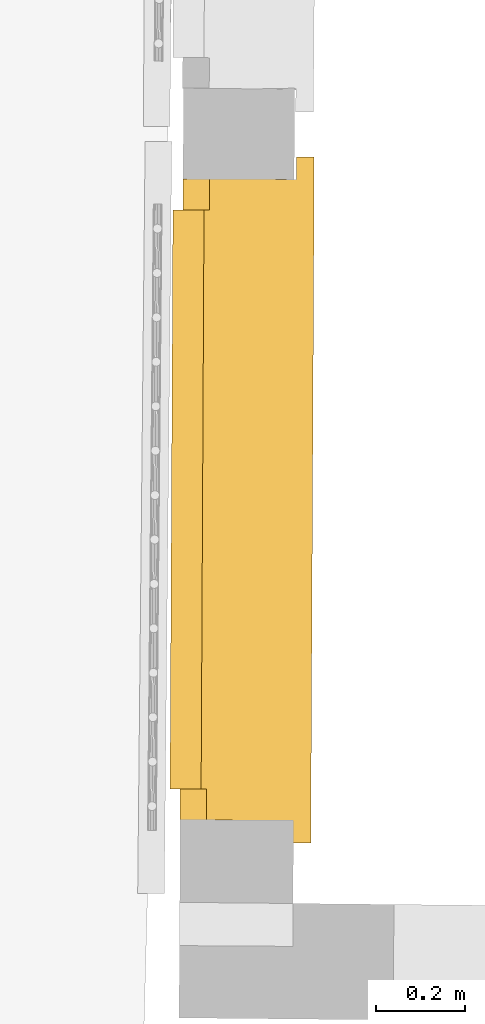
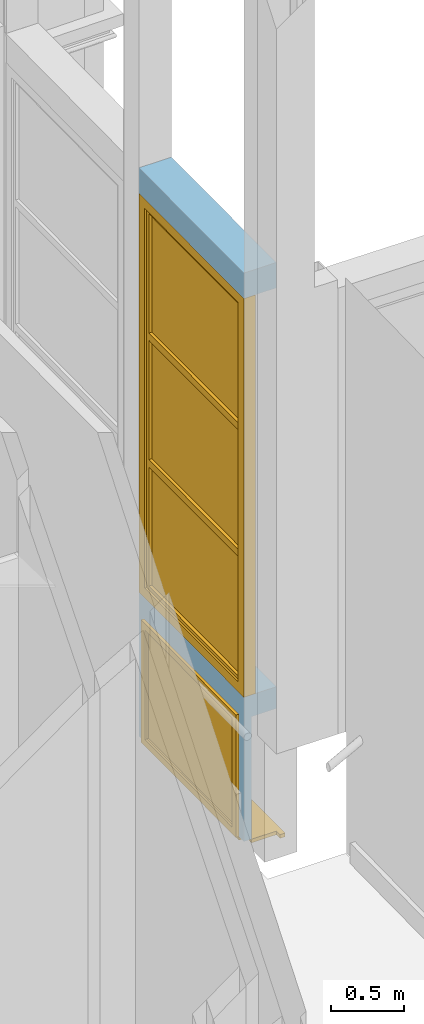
# One storey, part 61 of 97: 2 windows, 2 openings, plus 1 element that does not belong to this part.
"""IFC2X3 building model written with IfcOpenShell, lengths in centimetres."""

from ifc_helpers import new_model, entity, si_unit, converted_unit, direction, frame, origin, origin_with_axes, origin_2d_with_axis, place, context, subcontext, project, spatial, polyline, rectangle, outline, extrude, faceted_brep, shape, source, transform, mapped, material, material_list, layer, layer_set, layer_usage, type_object, element, fill, save


model = new_model("IFC2X3")

# Units and contexts
model_context = context("Model", 3, precision=0.0001, world=origin(), true_north=direction((0.225632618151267, 0.974212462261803, 0.0)))
body_context = subcontext(model_context, "Body", "Model", "MODEL_VIEW")
footprint_context = subcontext(model_context, "FootPrint", "Model", "MODEL_VIEW")
profile_context = subcontext(model_context, "Profile", "Model", "MODEL_VIEW")
ifc_project = project(units=[si_unit("LENGTHUNIT", "METRE", prefix="CENTI"), si_unit("AREAUNIT", "SQUARE_METRE", prefix="CENTI"), si_unit("VOLUMEUNIT", "CUBIC_METRE", prefix="CENTI"), converted_unit("PLANEANGLEUNIT", "DEGREE", entity("IfcRatioMeasure", 0.0174532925), si_unit("PLANEANGLEUNIT", "RADIAN"), dimensions=[0, 0, 0, 0, 0, 0, 0])], contexts=[model_context])

# Site, building, storey
site_placement = place(None, origin_with_axes())
site = spatial("IfcSite", under=ifc_project, at=site_placement, Name="Default Site", CompositionType="ELEMENT")
building_placement = place(site_placement, origin_with_axes())
building = spatial("IfcBuilding", under=site, at=building_placement, Name="Default Building", CompositionType="ELEMENT")
storey_placement = place(building_placement, origin_with_axes())
storey = spatial("IfcBuildingStorey", under=building, at=storey_placement, Name="Rez-de-chaussée", CompositionType="ELEMENT", Elevation=0.0)

# Wall, openings, windows
ifc_material_1 = material(Name="<aucun>")
ifc_layer = layer(ifc_material_1, 25.5)
ifc_layer_set = layer_set([ifc_layer], Name="default")
ifc_layer_usage = layer_usage(ifc_layer_set, "AXIS2", "POSITIVE", -12.75)
wall_type = type_object("IfcWallType", Name="default 255", PredefinedType="NOTDEFINED", material=ifc_layer_set)
wall_placement = place(storey_placement, frame((1083.47369991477, -176.791939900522, 0.0128503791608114), z_axis=(0.0, 0.0, 1.0), x_axis=(0.00502234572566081, 0.999987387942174, 0.0)))
wall = element("IfcWallStandardCase", 1, at=wall_placement, inside=storey, type_object=wall_type, material=ifc_layer_usage, Name="Enveloppe 728190", context=body_context, shape_type="SweptSolid", body=[
    extrude(rectangle(XDim=144.13896955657, YDim=25.5000000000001, at=origin_2d_with_axis()), frame((72.1624117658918, 1.77635683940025e-13, -5.42101086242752e-18), z_axis=(0.0, 0.0, 1.0), x_axis=(1.0, 5.40366362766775e-16, 0.0)), (0.0, 0.0, 1.0), 472.782507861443),
])
opening_1_placement = place(wall_placement, frame((2.8421709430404e-14, 0.0, -1.38951350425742e-15), z_axis=(0.0, 0.0, 1.0), x_axis=(-1.0, -1.99493199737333e-17, 0.0)))
cartesian_point_1 = entity("IfcCartesianPoint", [0.0, 0.0, 101.871089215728])
cartesian_point_2 = entity("IfcCartesianPoint", [-144.331896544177, -12.75])
opening_1 = element("IfcOpeningElement", 2, at=opening_1_placement, cuts=wall, Name="4294966482_11", ObjectType="Opening", shapes=[
    shape(body_context, "Body", "Brep", [faceted_brep([(-6.99999932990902, -32.7499538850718, 101.871085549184), (-137.33189540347, -32.7499538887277, 101.871085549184), (-137.33189540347, -32.7499538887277, -4.6260634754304e-10), (-6.99999932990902, -32.7499538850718, -4.6260634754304e-10), (5.61012087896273e-06, 32.7499530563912, -4.6260634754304e-10), (-144.324824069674, 32.7499530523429, -4.6260634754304e-10), (-144.324824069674, 32.7499530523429, 101.871085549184), (5.61012087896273e-06, 32.7499530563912, 101.871085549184), (-6.99999933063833, -6.74998454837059, -4.6260634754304e-10), (-6.99999933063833, -6.74998454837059, 101.871085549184), (-6.99999830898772, -6.74998454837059, 101.871085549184), (-6.99999830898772, -6.74998454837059, -4.6260634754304e-10), (2.47917010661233e-08, -6.74998454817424, -4.6260634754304e-10), (2.47917010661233e-08, -6.74998454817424, 101.871085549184), (2.47917020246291e-08, -6.75001871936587, 101.871085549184), (2.47917020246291e-08, -6.75001871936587, -4.6260634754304e-10), (2.36837233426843e-08, 32.7499530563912, -4.6260634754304e-10), (2.36837233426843e-08, 32.7499530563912, 101.871085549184), (-137.33189540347, -32.7500190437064, -4.6260634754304e-10), (-137.331897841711, -6.74995435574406, -4.6260634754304e-10), (-144.331895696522, -6.75001555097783, -4.6260634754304e-10), (-144.331896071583, 32.7499561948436, -4.6260634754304e-10), (-137.33189540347, -32.7500190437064, 101.871085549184), (-137.331895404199, -6.74995435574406, 101.871085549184), (-137.331895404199, -6.74995435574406, -4.6260634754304e-10), (-137.331897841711, -6.74995435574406, 101.871085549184), (-144.331895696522, -6.74995435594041, 101.871085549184), (-144.331895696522, -6.74995435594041, -4.6260634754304e-10), (-144.331895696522, -6.75001555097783, 101.871085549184), (-144.33189569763, 32.7499561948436, 101.871085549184), (-144.33189569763, 32.7499561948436, -4.6260634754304e-10), (-144.331896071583, 32.7499561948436, 101.871085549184)], [[[0, 1, 2, 3]], [[4, 5, 6, 7]], [[0, 3, 8, 9]], [[10, 11, 12, 13]], [[14, 15, 16, 17]], [[3, 18, 19, 20, 21, 4, 15, 11]], [[18, 22, 23, 24]], [[19, 25, 26, 27]], [[20, 28, 29, 30]], [[10, 14, 7, 31, 28, 25, 22, 0]]])]),
    shape(profile_context, "Profile", "GeometricCurveSet", [entity("IfcGeometricCurveSet", [entity("IfcPolyline", [cartesian_point_1, entity("IfcCartesianPoint", [0.0, 0.0, 0.0]), entity("IfcCartesianPoint", [-144.331896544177, 0.0, 0.0]), entity("IfcCartesianPoint", [-144.331896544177, 0.0, 101.871089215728]), cartesian_point_1])])]),
    shape(footprint_context, "FootPrint", "GeometricCurveSet", [entity("IfcGeometricCurveSet", [entity("IfcPolyline", [cartesian_point_2, entity("IfcCartesianPoint", [0.0, -12.7500000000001]), entity("IfcCartesianPoint", [0.0, 12.75]), entity("IfcCartesianPoint", [-144.331896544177, 12.7500000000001]), cartesian_point_2])])]),
])
opening_2_placement = place(wall_placement, frame((2.8421709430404e-14, 0.0, 119.987149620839), z_axis=(0.0, 0.0, 1.0), x_axis=(-1.0, -1.99493199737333e-17, 0.0)))
cartesian_point_3 = entity("IfcCartesianPoint", [-2.22044604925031e-14, 0.0, 331.674556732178])
cartesian_point_4 = entity("IfcCartesianPoint", [-144.324823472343, -12.75])
opening_2 = element("IfcOpeningElement", 3, at=opening_2_placement, cuts=wall, Name="4294966481_11", ObjectType="Opening", shapes=[
    shape(body_context, "Body", "SweptSolid", [extrude(outline(polyline([(2.22044604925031e-14, 331.674556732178), (0.0, -2.22044604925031e-14), (144.324823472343, -2.22044604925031e-14), (144.324823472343, 331.674556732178), (2.22044604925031e-14, 331.674556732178)])), frame((0.0, -22.75, 0.0), z_axis=(0.0, 1.0, 0.0), x_axis=(-1.0, 0.0, 0.0)), (0.0, 0.0, 1.0), 45.5)]),
    shape(profile_context, "Profile", "GeometricCurveSet", [entity("IfcGeometricCurveSet", [entity("IfcPolyline", [cartesian_point_3, entity("IfcCartesianPoint", [0.0, 0.0, -2.22044604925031e-14]), entity("IfcCartesianPoint", [-144.324823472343, 0.0, -2.22044604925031e-14]), entity("IfcCartesianPoint", [-144.324823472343, 0.0, 331.674556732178]), cartesian_point_3])])]),
    shape(footprint_context, "FootPrint", "GeometricCurveSet", [entity("IfcGeometricCurveSet", [entity("IfcPolyline", [cartesian_point_4, entity("IfcCartesianPoint", [0.0, -12.7500000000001]), entity("IfcCartesianPoint", [0.0, 12.75]), entity("IfcCartesianPoint", [-144.324823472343, 12.75]), cartesian_point_4])])]),
])
ifc_material_2 = material(Name="Transparent")
ifc_material_3 = material(Name="Blanc trafic")
ifc_material_list_1 = material_list([ifc_material_2, ifc_material_3])
window_style_1 = type_object("IfcWindowStyle", Name="Fn 1 montant fixe 2 vitres ép 90", ConstructionType="NOTDEFINED", OperationType="TRIPLE_PANEL_HORIZONTAL", ParameterTakesPrecedence=True, Sizeable=False, material=ifc_material_list_1)
shared_shape = source(origin_with_axes(), body_context, "Body", "Brep", [
    faceted_brep([(-64.1624093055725, 323.674559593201, -4.50000017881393), (-64.1624093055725, 323.674559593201, 4.50000017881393), (-64.1624093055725, 7.99999982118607, 4.50000017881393), (-64.1624093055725, 7.99999982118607, -4.50000017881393), (-72.1624135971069, 331.674551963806, 4.50000017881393), (-72.1624135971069, -2.22044604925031e-14, 4.50000017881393), (-72.1624135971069, 331.674551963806, -4.50000017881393), (-72.162413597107, -2.22044604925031e-14, -4.50000017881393), (-72.162413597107, -2.22044604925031e-14, 4.50000017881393), (-72.1624135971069, -2.22044604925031e-14, -4.50000017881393), (64.1624093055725, 7.99999982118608, 4.50000017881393), (64.1624093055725, 7.99999982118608, -4.50000017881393), (72.1624135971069, -2.22044604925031e-14, 4.50000017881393), (64.1624093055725, 7.99999982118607, 4.50000017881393), (72.1624135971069, -2.22044604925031e-14, -4.50000017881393), (64.1624093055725, 7.99999982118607, -4.50000017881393), (64.1624093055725, 323.674559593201, 4.50000017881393), (64.1624093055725, 323.674559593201, -4.50000017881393), (72.1624135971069, 331.674551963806, 4.50000017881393), (72.162413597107, 331.674551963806, -4.50000017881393), (72.162413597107, 331.674551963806, 4.50000017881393), (72.1624135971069, 331.674551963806, -4.50000017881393)], [[[0, 1, 2, 3]], [[1, 4, 5, 2]], [[4, 6, 7, 8]], [[6, 0, 3, 9]], [[3, 2, 10, 11]], [[2, 5, 12, 13]], [[5, 9, 14, 12]], [[9, 3, 15, 14]], [[15, 13, 16, 17]], [[13, 12, 18, 16]], [[12, 14, 19, 20]], [[14, 15, 17, 21]], [[17, 16, 1, 0]], [[16, 18, 4, 1]], [[18, 21, 6, 4]], [[21, 17, 0, 6]]]),
    faceted_brep([(-61.1624121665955, 320.674562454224, -2.99999993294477), (-61.1624121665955, 320.674562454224, 2.99999993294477), (-61.1624121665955, 221.449708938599, 2.99999993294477), (-61.1624121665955, 221.449708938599, -2.99999993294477), (-64.1624093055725, 323.674559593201, 2.99999993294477), (-64.1624093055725, 218.449711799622, 2.99999993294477), (-64.1624093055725, 323.674559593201, -2.99999993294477), (-64.1624093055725, 218.449711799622, -2.99999993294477), (61.1624121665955, 221.449708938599, 2.99999993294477), (61.1624121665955, 221.449708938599, -2.99999993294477), (64.1624093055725, 218.449711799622, 2.99999993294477), (64.1624093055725, 218.449711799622, -2.99999993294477), (61.1624121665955, 320.674562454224, 2.99999993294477), (61.1624121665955, 320.674562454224, -2.99999993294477), (64.1624093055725, 323.674559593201, 2.99999993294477), (64.1624093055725, 323.674559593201, -2.99999993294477)], [[[0, 1, 2, 3]], [[1, 4, 5, 2]], [[4, 6, 7, 5]], [[6, 0, 3, 7]], [[3, 2, 8, 9]], [[2, 5, 10, 8]], [[5, 7, 11, 10]], [[7, 3, 9, 11]], [[9, 8, 12, 13]], [[8, 10, 14, 12]], [[10, 11, 15, 14]], [[11, 9, 13, 15]], [[13, 12, 1, 0]], [[12, 14, 4, 1]], [[14, 15, 6, 4]], [[15, 13, 0, 6]]]),
    faceted_brep([(61.1624121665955, 320.674562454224, -0.499999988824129), (61.1624121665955, 221.449708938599, -0.499999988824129), (-61.1624121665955, 221.449708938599, -0.499999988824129), (-61.1624121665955, 320.674562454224, -0.499999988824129), (-61.1624121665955, 320.674562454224, 0.499999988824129), (-61.1624121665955, 221.449708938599, 0.499999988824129), (61.1624121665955, 221.449708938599, 0.499999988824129), (61.1624121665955, 320.674562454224, 0.499999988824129)], [[[0, 1, 2, 3]], [[4, 5, 6, 7]], [[3, 2, 5, 4]], [[2, 1, 6, 5]], [[1, 0, 7, 6]], [[0, 3, 4, 7]]]),
    faceted_brep([(-61.1624121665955, 215.449714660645, -2.99999993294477), (-61.1624121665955, 215.449714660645, 2.99999993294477), (-61.1624121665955, 116.224849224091, 2.99999993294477), (-61.1624121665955, 116.224849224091, -2.99999993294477), (-64.1624093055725, 218.449711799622, 2.99999993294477), (-64.1624093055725, 113.224852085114, 2.99999993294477), (-64.1624093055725, 218.449711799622, -2.99999993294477), (-64.1624093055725, 113.224852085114, -2.99999993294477), (61.1624121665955, 116.224849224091, 2.99999993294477), (61.1624121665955, 116.224849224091, -2.99999993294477), (64.1624093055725, 113.224852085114, 2.99999993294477), (64.1624093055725, 113.224852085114, -2.99999993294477), (61.1624121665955, 215.449714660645, 2.99999993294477), (61.1624121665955, 215.449714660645, -2.99999993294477), (64.1624093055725, 218.449711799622, 2.99999993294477), (64.1624093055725, 218.449711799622, -2.99999993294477)], [[[0, 1, 2, 3]], [[1, 4, 5, 2]], [[4, 6, 7, 5]], [[6, 0, 3, 7]], [[3, 2, 8, 9]], [[2, 5, 10, 8]], [[5, 7, 11, 10]], [[7, 3, 9, 11]], [[9, 8, 12, 13]], [[8, 10, 14, 12]], [[10, 11, 15, 14]], [[11, 9, 13, 15]], [[13, 12, 1, 0]], [[12, 14, 4, 1]], [[14, 15, 6, 4]], [[15, 13, 0, 6]]]),
    faceted_brep([(61.1624121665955, 215.449714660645, -0.499999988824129), (61.1624121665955, 116.224849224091, -0.499999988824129), (-61.1624121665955, 116.224849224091, -0.499999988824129), (-61.1624121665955, 215.449714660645, -0.499999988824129), (-61.1624121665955, 215.449714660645, 0.499999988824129), (-61.1624121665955, 116.224849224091, 0.499999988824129), (61.1624121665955, 116.224849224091, 0.499999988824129), (61.1624121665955, 215.449714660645, 0.499999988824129)], [[[0, 1, 2, 3]], [[4, 5, 6, 7]], [[3, 2, 5, 4]], [[2, 1, 6, 5]], [[1, 0, 7, 6]], [[0, 3, 4, 7]]]),
    faceted_brep([(-61.1624121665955, 110.224854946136, -2.99999993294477), (-61.1624121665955, 110.224854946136, 2.99999993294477), (-61.1624121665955, 10.9999999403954, 2.99999993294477), (-61.1624121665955, 10.9999999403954, -2.99999993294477), (-64.1624093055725, 113.224852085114, 2.99999993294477), (-64.1624093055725, 7.99999982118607, 2.99999993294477), (-64.1624093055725, 113.224852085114, -2.99999993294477), (-64.1624093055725, 7.99999982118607, -2.99999993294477), (61.1624121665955, 10.9999999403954, 2.99999993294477), (61.1624121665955, 10.9999999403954, -2.99999993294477), (64.1624093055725, 7.99999982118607, 2.99999993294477), (64.1624093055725, 7.99999982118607, -2.99999993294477), (61.1624121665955, 110.224854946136, 2.99999993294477), (61.1624121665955, 110.224854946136, -2.99999993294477), (64.1624093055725, 113.224852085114, 2.99999993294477), (64.1624093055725, 113.224852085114, -2.99999993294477)], [[[0, 1, 2, 3]], [[1, 4, 5, 2]], [[4, 6, 7, 5]], [[6, 0, 3, 7]], [[3, 2, 8, 9]], [[2, 5, 10, 8]], [[5, 7, 11, 10]], [[7, 3, 9, 11]], [[9, 8, 12, 13]], [[8, 10, 14, 12]], [[10, 11, 15, 14]], [[11, 9, 13, 15]], [[13, 12, 1, 0]], [[12, 14, 4, 1]], [[14, 15, 6, 4]], [[15, 13, 0, 6]]]),
    faceted_brep([(61.1624121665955, 110.224854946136, -0.499999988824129), (61.1624121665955, 10.9999999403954, -0.499999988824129), (-61.1624121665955, 10.9999999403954, -0.499999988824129), (-61.1624121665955, 110.224854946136, -0.499999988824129), (-61.1624121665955, 110.224854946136, 0.499999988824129), (-61.1624121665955, 10.9999999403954, 0.499999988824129), (61.1624121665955, 10.9999999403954, 0.499999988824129), (61.1624121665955, 110.224854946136, 0.499999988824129)], [[[0, 1, 2, 3]], [[4, 5, 6, 7]], [[3, 2, 5, 4]], [[2, 1, 6, 5]], [[1, 0, 7, 6]], [[0, 3, 4, 7]]]),
])
window_1_placement = place(opening_2_placement, frame((-144.324823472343, -12.75, -1.4210854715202e-14), z_axis=(0.0, 0.0, 1.0), x_axis=(1.0, 0.0, 0.0)))
window_1 = element("IfcWindow", 4, at=window_1_placement, inside=storey, type_object=window_style_1, material=ifc_material_list_1, Name="Fenêtre 728246", OverallHeight=331.674556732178, OverallWidth=144.324823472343, context=body_context, shape_type="MappedRepresentation", body=[
    mapped(shared_shape, transform((72.1624117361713, 4.49999999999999, 0.0), x_axis=(-1.0, 0.0, 0.0), y_axis=(0.0, 0.0, 1.0), z_axis=(0.0, 1.0, 0.0), scale=1.0, scale2=1.0, scale3=1.0, uniform=False)),
])
fill(opening_2, window_1)
ifc_material_4 = material(Name="Blanc trafic")
ifc_material_list_2 = material_list([ifc_material_2, ifc_material_4, ifc_material_3])
window_style_2 = type_object("IfcWindowStyle", Name="F[R] VV", ConstructionType="NOTDEFINED", OperationType="SINGLE_PANEL", ParameterTakesPrecedence=True, Sizeable=False, material=ifc_material_list_2)
window_2_placement = place(opening_1_placement, frame((-137.331896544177, -8.0, -1.73472347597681e-18), z_axis=(0.0, 0.0, 1.0), x_axis=(1.0, 0.0, 0.0)))
window_2 = element("IfcWindow", 5, at=window_2_placement, inside=storey, type_object=window_style_2, material=ifc_material_list_2, Name="Fenêtre 728241", OverallHeight=101.871089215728, OverallWidth=130.331896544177, context=body_context, shape_type="Brep", body=[
    faceted_brep([(-6.9999986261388, 20.7500091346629, -4.6260634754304e-10), (-6.99999915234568, 1.24998444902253, -4.6260634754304e-10), (-1.29753447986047e-06, 1.2500456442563, -4.6260634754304e-10), (-2.39528152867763e-07, -4.74997661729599, -4.6260634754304e-10), (130.331896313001, -4.75000682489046, -4.6260634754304e-10), (130.331898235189, 1.25001545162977, -4.6260634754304e-10), (137.331896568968, 1.24998128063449, -4.6260634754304e-10), (137.331891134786, 20.7500059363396, -4.6260634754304e-10), (142.331901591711, 20.7500360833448, -4.6260634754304e-10), (142.331899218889, 24.7499873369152, -4.6260634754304e-10), (-12.0000000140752, 24.7500256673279, -4.6260634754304e-10), (-12.0000001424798, 20.7499790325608, -4.6260634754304e-10), (-12.0000001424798, 20.7499790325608, -2.99999992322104), (-12.0000000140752, 24.7500256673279, -2.99999992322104), (142.331899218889, 24.7499873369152, -2.99999992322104), (142.331901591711, 20.7500360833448, -2.99999992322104), (137.331891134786, 20.7500059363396, -2.99999992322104), (137.331896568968, 1.24998128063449, -2.99999992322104), (130.331898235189, 1.25001545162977, -2.99999992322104), (130.331896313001, -4.75000682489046, -2.99999992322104), (-2.39528152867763e-07, -4.74997661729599, -2.99999992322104), (-1.29753447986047e-06, 1.2500456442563, -2.99999992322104), (-6.99999915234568, 1.24998444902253, -2.99999992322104), (-6.9999986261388, 20.7500091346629, -2.99999992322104), (-12.000000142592, 24.7500256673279, -4.6260634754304e-10), (-12.000000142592, 24.7500256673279, -2.99999992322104), (142.331899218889, 24.7500256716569, -4.6260634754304e-10), (142.331899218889, 24.7500256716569, -2.99999992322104), (142.331899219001, 20.7500360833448, -4.6260634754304e-10), (142.331899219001, 20.7500360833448, -2.99999992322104), (137.331891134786, 20.7500360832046, -4.6260634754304e-10), (137.331891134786, 20.7500360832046, -2.99999992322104), (137.331891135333, 1.24998128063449, -4.6260634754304e-10), (137.331891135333, 1.24998128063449, -2.99999992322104), (130.331898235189, 1.24998128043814, -4.6260634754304e-10), (130.331898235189, 1.24998128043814, -2.99999992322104), (130.331898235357, -4.75000682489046, -4.6260634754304e-10), (130.331898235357, -4.75000682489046, -2.99999992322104), (-2.39528152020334e-07, -4.75000682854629, -4.6260634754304e-10), (-2.39528152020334e-07, -4.75000682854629, -2.99999992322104), (-2.39696454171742e-07, 1.2500456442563, -4.6260634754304e-10), (-2.39696454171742e-07, 1.2500456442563, -2.99999992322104), (-6.99999915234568, 1.25004564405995, -4.6260634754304e-10), (-6.99999915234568, 1.25004564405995, -2.99999992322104), (-6.99999915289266, 20.7500091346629, -4.6260634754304e-10), (-6.99999915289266, 20.7500091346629, -2.99999992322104), (-12.0000001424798, 20.7500091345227, -4.6260634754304e-10), (-12.0000001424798, 20.7500091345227, -2.99999992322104)], [[[0, 1, 2, 3, 4, 5, 6, 7, 8, 9, 10, 11]], [[12, 13, 14, 15, 16, 17, 18, 19, 20, 21, 22, 23]], [[11, 24, 25, 12]], [[10, 26, 27, 13]], [[9, 28, 29, 14]], [[8, 30, 31, 15]], [[7, 32, 33, 16]], [[6, 34, 35, 17]], [[5, 36, 37, 18]], [[4, 38, 39, 19]], [[3, 40, 41, 20]], [[2, 42, 43, 21]], [[1, 44, 45, 22]], [[0, 46, 47, 23]]]),
    faceted_brep([(124.83189642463, -7.00000002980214, 96.3710904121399), (123.831896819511, -6.00000042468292, 95.3710913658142), (123.831896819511, -6.00000042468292, 6.49999976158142), (124.83189642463, -7.00000002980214, 5.49999997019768), (123.831897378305, -5.99999986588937, 95.3710913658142), (123.831897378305, -0.999999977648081, 95.3710913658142), (123.831897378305, -0.999999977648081, 6.49999976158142), (123.831897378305, -5.99999986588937, 6.49999976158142), (124.831896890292, -4.65661109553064e-07, 96.3710904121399), (124.831896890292, -4.65661109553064e-07, 5.49999997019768), (124.83189642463, 1.77635683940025e-13, 96.3710904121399), (130.331897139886, 1.77635683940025e-13, 101.871085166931), (130.331897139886, 1.77635683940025e-13, 0.0), (124.83189642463, 1.77635683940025e-13, 5.49999997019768), (130.331897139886, -7.00000002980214, 101.871085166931), (130.331897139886, -7.00000002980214, 0.0), (123.831897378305, -6.00000005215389, 6.49999994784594), (6.49999916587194, -6.00000005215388, 6.49999994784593), (5.50000011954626, -7.00000002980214, 5.49999997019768), (6.49999916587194, -0.999999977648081, 6.49999976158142), (6.49999916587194, -5.99999986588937, 6.49999976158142), (124.83189642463, -9.31320797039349e-08, 5.49999987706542), (5.50000011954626, -9.31320831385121e-08, 5.49999987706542), (6.49999916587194, -0.999999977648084, 6.49999976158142), (-5.95709481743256e-07, 1.77635683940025e-13, 0.0), (5.50000011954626, 1.77635683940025e-13, 5.49999997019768), (-5.95709481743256e-07, -7.00000002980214, 0.0), (5.50000011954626, -7.00000002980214, 5.49999997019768), (6.49999972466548, -6.00000042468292, 6.49999976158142), (6.49999972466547, -6.00000042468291, 95.3710913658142), (5.50000011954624, -7.00000002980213, 96.3710904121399), (6.49999916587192, -0.999999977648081, 95.3710913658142), (6.49999916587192, -5.99999986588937, 95.3710913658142), (5.49999965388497, -4.65661109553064e-07, 5.49999997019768), (5.49999965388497, -4.65661109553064e-07, 96.3710904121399), (6.49999916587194, -0.999999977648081, 95.3710913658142), (-5.95709481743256e-07, 1.77635683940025e-13, 101.871085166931), (5.50000011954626, 1.77635683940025e-13, 96.3710904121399), (-5.95709481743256e-07, -7.00000002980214, 101.871085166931), (5.50000011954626, -7.00000002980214, 96.3710904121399), (6.49999916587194, -6.00000042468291, 95.3710908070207), (123.831897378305, -6.00000042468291, 95.3710908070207), (6.49999916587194, -5.99999986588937, 95.3710913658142), (5.50000011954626, -4.65661101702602e-07, 96.3710908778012), (124.83189642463, -4.65661109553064e-07, 96.3710908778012)], [[[0, 1, 2, 3]], [[4, 5, 6, 7]], [[5, 8, 9, 6]], [[10, 11, 12, 13]], [[11, 14, 15, 12]], [[14, 0, 3, 15]], [[3, 16, 17, 18]], [[7, 6, 19, 20]], [[6, 21, 22, 23]], [[13, 12, 24, 25]], [[12, 15, 26, 24]], [[15, 3, 27, 26]], [[27, 28, 29, 30]], [[20, 19, 31, 32]], [[19, 33, 34, 35]], [[25, 24, 36, 37]], [[24, 26, 38, 36]], [[26, 27, 39, 38]], [[39, 40, 41, 0]], [[42, 35, 5, 4]], [[35, 43, 44, 5]], [[37, 36, 11, 10]], [[36, 38, 14, 11]], [[38, 39, 0, 14]]]),
    faceted_brep([(6.49999916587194, -4.89999987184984, 95.3710913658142), (6.49999916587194, -4.89999987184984, 6.49999976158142), (123.831897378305, -4.89999987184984, 6.49999976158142), (123.831897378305, -4.89999987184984, 95.3710913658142), (123.831897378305, -2.09999997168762, 95.3710913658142), (123.831897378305, -2.09999997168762, 6.49999976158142), (6.49999916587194, -2.09999997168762, 6.49999976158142), (6.49999916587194, -2.09999997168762, 95.3710913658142)], [[[0, 1, 2, 3]], [[4, 5, 6, 7]], [[3, 2, 5, 4]], [[2, 1, 6, 5]], [[1, 0, 7, 6]], [[0, 3, 4, 7]]]),
])
fill(opening_1, window_2)

save(model, "model.ifc")
